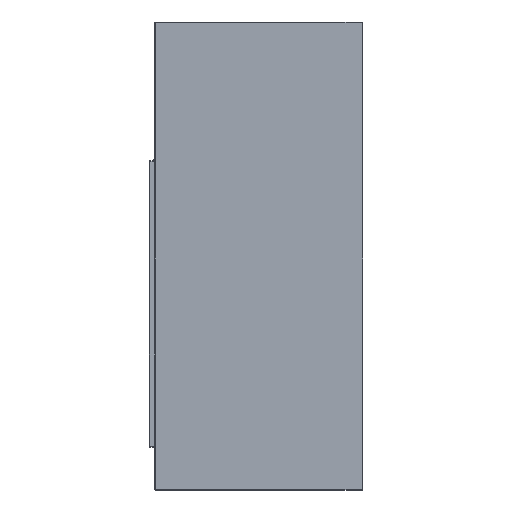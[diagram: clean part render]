
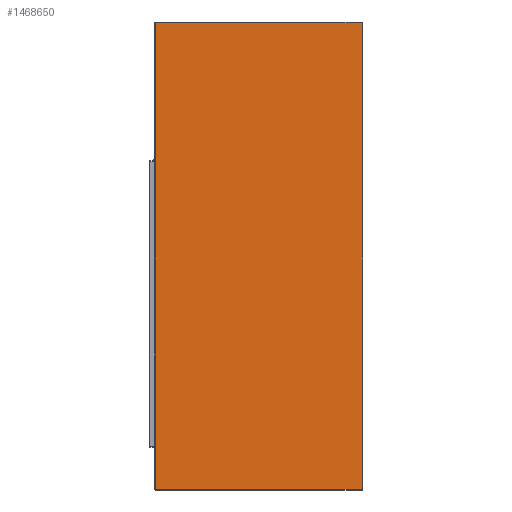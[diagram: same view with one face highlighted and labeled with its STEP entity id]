
A CAD part, top view. The second image highlights one B-rep face of the part: STEP entity #1468650.
In plain terms, the highlighted free-form (B-spline) face has degree [1, 1] with [2, 2] control points.
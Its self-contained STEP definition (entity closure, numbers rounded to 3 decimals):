
#1468300 = CARTESIAN_POINT ('', (-398., 898., 363.425));
#1468310 = VERTEX_POINT ('', #1468300);
#1468320 = CARTESIAN_POINT ('', (-398., -898., 363.425));
#1468330 = VERTEX_POINT ('', #1468320);
#1468340 = CARTESIAN_POINT ('', (-398., 898., 363.425));
#1468350 = CARTESIAN_POINT ('', (-398., -898., 363.425));
#1468360 = (
   BOUNDED_CURVE ()
   B_SPLINE_CURVE (1, (#1468340, #1468350), .UNSPECIFIED., .F., .U.)
   B_SPLINE_CURVE_WITH_KNOTS ((2, 2), (0., 1796.), .UNSPECIFIED.)
   CURVE ()
   GEOMETRIC_REPRESENTATION_ITEM ()
   RATIONAL_B_SPLINE_CURVE ((1., 1.))
   REPRESENTATION_ITEM ('')
);
#1468370 = EDGE_CURVE ('', #1468310, #1468330, #1468360, .T.);
#1468380 = ORIENTED_EDGE ('', *, *, #1468370, .T.);
#1468390 = CARTESIAN_POINT ('', (398., -898., 363.425));
#1468400 = VERTEX_POINT ('', #1468390);
#1468410 = CARTESIAN_POINT ('', (-398., -898., 363.425));
#1468420 = CARTESIAN_POINT ('', (398., -898., 363.425));
#1468430 = (
   BOUNDED_CURVE ()
   B_SPLINE_CURVE (1, (#1468410, #1468420), .UNSPECIFIED., .F., .U.)
   B_SPLINE_CURVE_WITH_KNOTS ((2, 2), (0., 796.), .UNSPECIFIED.)
   CURVE ()
   GEOMETRIC_REPRESENTATION_ITEM ()
   RATIONAL_B_SPLINE_CURVE ((1., 1.))
   REPRESENTATION_ITEM ('')
);
#1468440 = EDGE_CURVE ('', #1468330, #1468400, #1468430, .T.);
#1468450 = ORIENTED_EDGE ('', *, *, #1468440, .T.);
#1468460 = CARTESIAN_POINT ('', (398., 898., 363.425));
#1468470 = VERTEX_POINT ('', #1468460);
#1468480 = CARTESIAN_POINT ('', (398., -898., 363.425));
#1468490 = CARTESIAN_POINT ('', (398., 898., 363.425));
#1468500 = (
   BOUNDED_CURVE ()
   B_SPLINE_CURVE (1, (#1468480, #1468490), .UNSPECIFIED., .F., .U.)
   B_SPLINE_CURVE_WITH_KNOTS ((2, 2), (0., 1796.), .UNSPECIFIED.)
   CURVE ()
   GEOMETRIC_REPRESENTATION_ITEM ()
   RATIONAL_B_SPLINE_CURVE ((1., 1.))
   REPRESENTATION_ITEM ('')
);
#1468510 = EDGE_CURVE ('', #1468400, #1468470, #1468500, .T.);
#1468520 = ORIENTED_EDGE ('', *, *, #1468510, .T.);
#1468530 = CARTESIAN_POINT ('', (398., 898., 363.425));
#1468540 = CARTESIAN_POINT ('', (-398., 898., 363.425));
#1468550 = (
   BOUNDED_CURVE ()
   B_SPLINE_CURVE (1, (#1468530, #1468540), .UNSPECIFIED., .F., .U.)
   B_SPLINE_CURVE_WITH_KNOTS ((2, 2), (0., 796.), .UNSPECIFIED.)
   CURVE ()
   GEOMETRIC_REPRESENTATION_ITEM ()
   RATIONAL_B_SPLINE_CURVE ((1., 1.))
   REPRESENTATION_ITEM ('')
);
#1468560 = EDGE_CURVE ('', #1468470, #1468310, #1468550, .T.);
#1468570 = ORIENTED_EDGE ('', *, *, #1468560, .T.);
#1468580 = EDGE_LOOP ('', (#1468380, #1468450, #1468520, #1468570));
#1468590 = FACE_OUTER_BOUND ('', #1468580, .T.);
#1468600 = CARTESIAN_POINT ('', (1514.332, -2271.497, 363.425));
#1468610 = CARTESIAN_POINT ('', (-1514.332, -2271.497, 363.425));
#1468620 = CARTESIAN_POINT ('', (1514.332, 2271.497, 363.425));
#1468630 = CARTESIAN_POINT ('', (-1514.332, 2271.497, 363.425));
#1468640 = B_SPLINE_SURFACE_WITH_KNOTS ('', 1, 1, ((#1468600, #1468610), (#1468620, #1468630)), .UNSPECIFIED., .F., .F., .U., (2, 2), (2, 2), (0., 1.), (0., 1.), .UNSPECIFIED.);
#1468650 = ADVANCED_FACE ('', (#1468590), #1468640, .T.);
